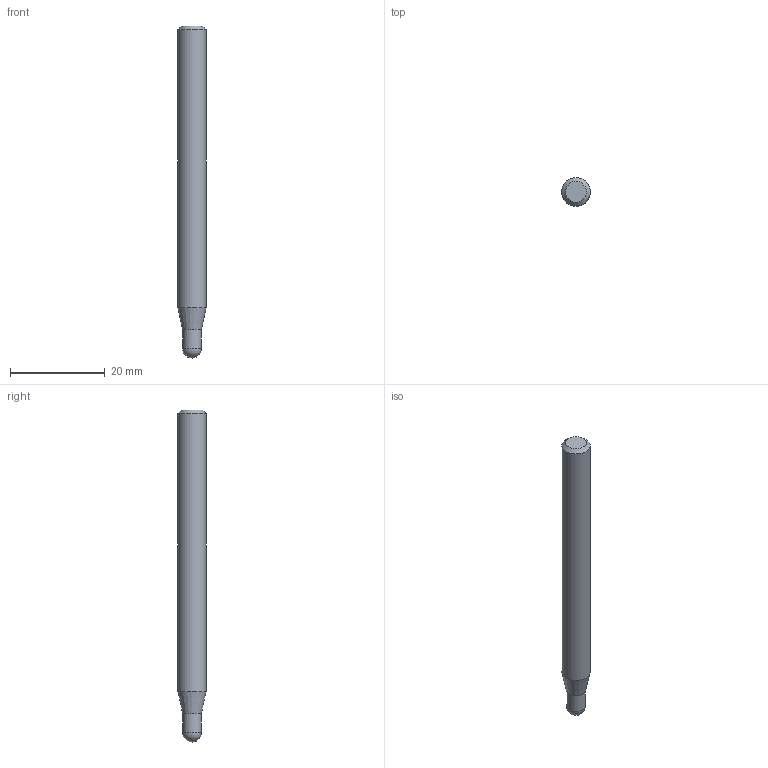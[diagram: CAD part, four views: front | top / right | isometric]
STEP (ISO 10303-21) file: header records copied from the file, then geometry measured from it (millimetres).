
FILE_DESCRIPTION((''),'2;1');
FILE_NAME('C:\Users\nsx150\AppData\Local\Temp\Mastercam 2021\98T1Q6BTT1\TEMP.step','2021-10-21T14:55:31',(''),(''),'STEP Write','Mastercam 2021 ... CNC Software, Inc.','');
FILE_SCHEMA(('AUTOMOTIVE_DESIGN'));
Length unit declared in the file: millimetre
Products named in the file (1): None
Bounding box: 6 x 6 x 70 mm (x, y, z)
Volume: 1831.7 mm3; surface area: 1312.4 mm2
Topology: 2 solids, 2 shells, 8 faces, 12 edges, 7 vertices
Faces by surface type: plane 3, cylinder 2, cone 2, sphere 1
Full cylindrical faces by diameter (mm): 4 x1, 6 x1
Entity records: 190 total; most frequent: DIRECTION 32, CARTESIAN_POINT 22, AXIS2_PLACEMENT_3D 16, ORIENTED_EDGE 12, EDGE_LOOP 12, STYLED_ITEM 11, ADVANCED_FACE 8, VERTEX_POINT 6
